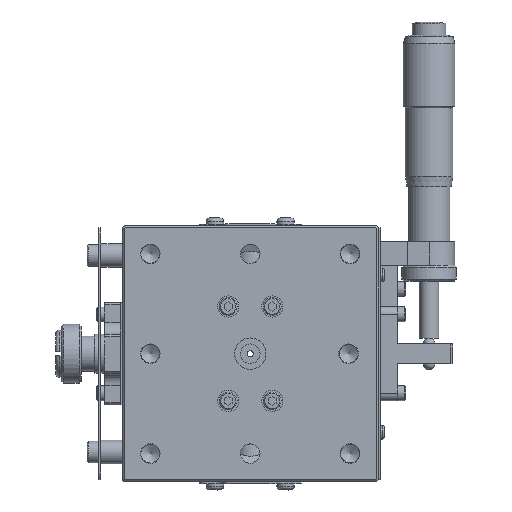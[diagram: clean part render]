
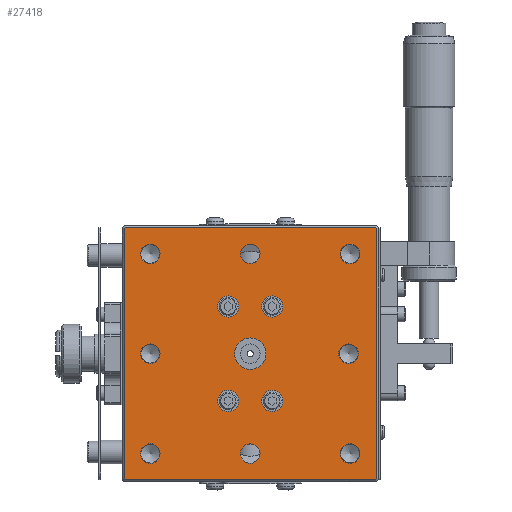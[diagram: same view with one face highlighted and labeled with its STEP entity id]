
A CAD part, top view. The second image highlights one B-rep face of the part: STEP entity #27418.
In plain terms, the highlighted planar face has unit normal (0, 0, 1).
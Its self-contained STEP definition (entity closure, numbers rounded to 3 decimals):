
#26870=CARTESIAN_POINT('',(-32.0,31.793,-50.0));
#26871=VERTEX_POINT('',#26870);
#26872=CARTESIAN_POINT('',(-31.793,32.0,-50.0));
#26873=VERTEX_POINT('',#26872);
#26874=CARTESIAN_POINT('',(-32.0,31.793,-50.0));
#26875=DIRECTION('',(0.707,0.707,0.0));
#26876=VECTOR('',#26875,0.293);
#26877=LINE('',#26874,#26876);
#26878=EDGE_CURVE('',#26871,#26873,#26877,.T.);
#26910=CARTESIAN_POINT('',(-32.0,-31.793,-50.0));
#26911=VERTEX_POINT('',#26910);
#26912=CARTESIAN_POINT('',(-32.0,-31.793,-50.0));
#26913=DIRECTION('',(0.0,1.0,0.0));
#26914=VECTOR('',#26913,63.586);
#26915=LINE('',#26912,#26914);
#26916=EDGE_CURVE('',#26911,#26871,#26915,.T.);
#26960=CARTESIAN_POINT('',(31.793,32.0,-50.0));
#26961=VERTEX_POINT('',#26960);
#26962=CARTESIAN_POINT('',(-31.793,32.0,-50.0));
#26963=DIRECTION('',(1.0,0.0,0.0));
#26964=VECTOR('',#26963,63.586);
#26965=LINE('',#26962,#26964);
#26966=EDGE_CURVE('',#26873,#26961,#26965,.T.);
#26982=CARTESIAN_POINT('',(31.793,-32.,-50.0));
#26983=VERTEX_POINT('',#26982);
#26984=CARTESIAN_POINT('',(-31.793,-32.0,-50.0));
#26985=VERTEX_POINT('',#26984);
#26986=CARTESIAN_POINT('',(31.793,-32.,-50.0));
#26987=DIRECTION('',(-1.0,0.0,0.0));
#26988=VECTOR('',#26987,63.586);
#26989=LINE('',#26986,#26988);
#26990=EDGE_CURVE('',#26983,#26985,#26989,.T.);
#27020=CARTESIAN_POINT('',(32.0,31.793,-50.0));
#27021=VERTEX_POINT('',#27020);
#27022=CARTESIAN_POINT('',(32.,-31.793,-50.0));
#27023=VERTEX_POINT('',#27022);
#27024=CARTESIAN_POINT('',(32.0,31.793,-50.0));
#27025=DIRECTION('',(0.0,-1.0,0.0));
#27026=VECTOR('',#27025,63.586);
#27027=LINE('',#27024,#27026);
#27028=EDGE_CURVE('',#27021,#27023,#27027,.T.);
#27053=CARTESIAN_POINT('',(32.,-31.793,-50.0));
#27054=DIRECTION('',(-0.707,-0.707,0.0));
#27055=VECTOR('',#27054,0.293);
#27056=LINE('',#27053,#27055);
#27057=EDGE_CURVE('',#27023,#26983,#27056,.T.);
#27075=CARTESIAN_POINT('',(31.793,32.0,-50.0));
#27076=DIRECTION('',(0.707,-0.707,0.0));
#27077=VECTOR('',#27076,0.293);
#27078=LINE('',#27075,#27077);
#27079=EDGE_CURVE('',#26961,#27021,#27078,.T.);
#27092=CARTESIAN_POINT('',(-31.793,-32.0,-50.0));
#27093=DIRECTION('',(-0.707,0.707,0.0));
#27094=VECTOR('',#27093,0.293);
#27095=LINE('',#27092,#27094);
#27096=EDGE_CURVE('',#26985,#26911,#27095,.T.);
#27260=CARTESIAN_POINT('',(32.5,-32.5,-50.0));
#27261=DIRECTION('',(0.0,0.0,-1.0));
#27262=DIRECTION('',(-1.0,0.0,0.0));
#27263=AXIS2_PLACEMENT_3D('',#27260,#27261,#27262);
#27264=PLANE('',#27263);
#27265=ORIENTED_EDGE('',*,*,#27028,.F.);
#27266=ORIENTED_EDGE('',*,*,#27079,.F.);
#27267=ORIENTED_EDGE('',*,*,#26966,.F.);
#27268=ORIENTED_EDGE('',*,*,#26878,.F.);
#27269=ORIENTED_EDGE('',*,*,#26916,.F.);
#27270=ORIENTED_EDGE('',*,*,#27096,.F.);
#27271=ORIENTED_EDGE('',*,*,#26990,.F.);
#27272=ORIENTED_EDGE('',*,*,#27057,.F.);
#27273=EDGE_LOOP('',(#27265,#27266,#27267,#27268,#27269,#27270,#27271,#27272));
#27274=FACE_OUTER_BOUND('',#27273,.T.);
#27275=CARTESIAN_POINT('',(-2.9,-12.,-50.0));
#27276=VERTEX_POINT('',#27275);
#27277=CARTESIAN_POINT('',(-5.6,-12.,-50.0));
#27278=DIRECTION('',(0.0,0.0,-1.0));
#27279=DIRECTION('',(1.0,0.0,0.0));
#27280=AXIS2_PLACEMENT_3D('',#27277,#27278,#27279);
#27281=CIRCLE('',#27280,2.7);
#27282=EDGE_CURVE('',#27276,#27276,#27281,.T.);
#27283=ORIENTED_EDGE('',*,*,#27282,.T.);
#27284=EDGE_LOOP('',(#27283));
#27285=FACE_BOUND('',#27284,.T.);
#27286=CARTESIAN_POINT('',(8.3,-12.,-50.0));
#27287=VERTEX_POINT('',#27286);
#27288=CARTESIAN_POINT('',(5.6,-12.,-50.0));
#27289=DIRECTION('',(0.0,0.0,-1.0));
#27290=DIRECTION('',(1.0,0.0,0.0));
#27291=AXIS2_PLACEMENT_3D('',#27288,#27289,#27290);
#27292=CIRCLE('',#27291,2.7);
#27293=EDGE_CURVE('',#27287,#27287,#27292,.T.);
#27294=ORIENTED_EDGE('',*,*,#27293,.T.);
#27295=EDGE_LOOP('',(#27294));
#27296=FACE_BOUND('',#27295,.T.);
#27297=CARTESIAN_POINT('',(-2.9,12.,-50.0));
#27298=VERTEX_POINT('',#27297);
#27299=CARTESIAN_POINT('',(-5.6,12.,-50.0));
#27300=DIRECTION('',(0.0,0.0,-1.0));
#27301=DIRECTION('',(1.0,0.0,0.0));
#27302=AXIS2_PLACEMENT_3D('',#27299,#27300,#27301);
#27303=CIRCLE('',#27302,2.7);
#27304=EDGE_CURVE('',#27298,#27298,#27303,.T.);
#27305=ORIENTED_EDGE('',*,*,#27304,.T.);
#27306=EDGE_LOOP('',(#27305));
#27307=FACE_BOUND('',#27306,.T.);
#27308=CARTESIAN_POINT('',(8.3,12.,-50.0));
#27309=VERTEX_POINT('',#27308);
#27310=CARTESIAN_POINT('',(5.6,12.,-50.0));
#27311=DIRECTION('',(0.0,0.0,-1.0));
#27312=DIRECTION('',(1.0,0.0,0.0));
#27313=AXIS2_PLACEMENT_3D('',#27310,#27311,#27312);
#27314=CIRCLE('',#27313,2.7);
#27315=EDGE_CURVE('',#27309,#27309,#27314,.T.);
#27316=ORIENTED_EDGE('',*,*,#27315,.T.);
#27317=EDGE_LOOP('',(#27316));
#27318=FACE_BOUND('',#27317,.T.);
#27319=CARTESIAN_POINT('',(-22.911,-25.4,-50.0));
#27320=VERTEX_POINT('',#27319);
#27321=CARTESIAN_POINT('',(-25.4,-25.4,-50.0));
#27322=DIRECTION('',(0.0,0.0,-1.0));
#27323=DIRECTION('',(1.0,0.0,0.0));
#27324=AXIS2_PLACEMENT_3D('',#27321,#27322,#27323);
#27325=CIRCLE('',#27324,2.489);
#27326=EDGE_CURVE('',#27320,#27320,#27325,.T.);
#27327=ORIENTED_EDGE('',*,*,#27326,.T.);
#27328=EDGE_LOOP('',(#27327));
#27329=FACE_BOUND('',#27328,.T.);
#27330=CARTESIAN_POINT('',(27.889,-25.4,-50.0));
#27331=VERTEX_POINT('',#27330);
#27332=CARTESIAN_POINT('',(25.4,-25.4,-50.0));
#27333=DIRECTION('',(0.0,0.0,-1.0));
#27334=DIRECTION('',(1.0,0.0,0.0));
#27335=AXIS2_PLACEMENT_3D('',#27332,#27333,#27334);
#27336=CIRCLE('',#27335,2.489);
#27337=EDGE_CURVE('',#27331,#27331,#27336,.T.);
#27338=ORIENTED_EDGE('',*,*,#27337,.T.);
#27339=EDGE_LOOP('',(#27338));
#27340=FACE_BOUND('',#27339,.T.);
#27341=CARTESIAN_POINT('',(-22.911,25.4,-50.0));
#27342=VERTEX_POINT('',#27341);
#27343=CARTESIAN_POINT('',(-25.4,25.4,-50.0));
#27344=DIRECTION('',(0.0,0.0,-1.0));
#27345=DIRECTION('',(1.0,0.0,0.0));
#27346=AXIS2_PLACEMENT_3D('',#27343,#27344,#27345);
#27347=CIRCLE('',#27346,2.489);
#27348=EDGE_CURVE('',#27342,#27342,#27347,.T.);
#27349=ORIENTED_EDGE('',*,*,#27348,.T.);
#27350=EDGE_LOOP('',(#27349));
#27351=FACE_BOUND('',#27350,.T.);
#27352=CARTESIAN_POINT('',(27.889,25.4,-50.0));
#27353=VERTEX_POINT('',#27352);
#27354=CARTESIAN_POINT('',(25.4,25.4,-50.0));
#27355=DIRECTION('',(0.0,0.0,-1.0));
#27356=DIRECTION('',(1.0,0.0,0.0));
#27357=AXIS2_PLACEMENT_3D('',#27354,#27355,#27356);
#27358=CIRCLE('',#27357,2.489);
#27359=EDGE_CURVE('',#27353,#27353,#27358,.T.);
#27360=ORIENTED_EDGE('',*,*,#27359,.T.);
#27361=EDGE_LOOP('',(#27360));
#27362=FACE_BOUND('',#27361,.T.);
#27363=CARTESIAN_POINT('',(-22.911,0.,-50.0));
#27364=VERTEX_POINT('',#27363);
#27365=CARTESIAN_POINT('',(-25.4,0.,-50.0));
#27366=DIRECTION('',(0.0,0.0,-1.0));
#27367=DIRECTION('',(1.0,0.0,0.0));
#27368=AXIS2_PLACEMENT_3D('',#27365,#27366,#27367);
#27369=CIRCLE('',#27368,2.489);
#27370=EDGE_CURVE('',#27364,#27364,#27369,.T.);
#27371=ORIENTED_EDGE('',*,*,#27370,.T.);
#27372=EDGE_LOOP('',(#27371));
#27373=FACE_BOUND('',#27372,.T.);
#27374=CARTESIAN_POINT('',(27.489,0.,-50.0));
#27375=VERTEX_POINT('',#27374);
#27376=CARTESIAN_POINT('',(25.,0.,-50.0));
#27377=DIRECTION('',(0.0,0.0,-1.0));
#27378=DIRECTION('',(1.0,0.0,0.0));
#27379=AXIS2_PLACEMENT_3D('',#27376,#27377,#27378);
#27380=CIRCLE('',#27379,2.489);
#27381=EDGE_CURVE('',#27375,#27375,#27380,.T.);
#27382=ORIENTED_EDGE('',*,*,#27381,.T.);
#27383=EDGE_LOOP('',(#27382));
#27384=FACE_BOUND('',#27383,.T.);
#27385=CARTESIAN_POINT('',(2.489,-25.4,-50.0));
#27386=VERTEX_POINT('',#27385);
#27387=CARTESIAN_POINT('',(0.0,-25.4,-50.0));
#27388=DIRECTION('',(0.0,0.0,-1.0));
#27389=DIRECTION('',(1.0,0.0,0.0));
#27390=AXIS2_PLACEMENT_3D('',#27387,#27388,#27389);
#27391=CIRCLE('',#27390,2.489);
#27392=EDGE_CURVE('',#27386,#27386,#27391,.T.);
#27393=ORIENTED_EDGE('',*,*,#27392,.T.);
#27394=EDGE_LOOP('',(#27393));
#27395=FACE_BOUND('',#27394,.T.);
#27396=CARTESIAN_POINT('',(2.489,25.4,-50.0));
#27397=VERTEX_POINT('',#27396);
#27398=CARTESIAN_POINT('',(0.0,25.4,-50.0));
#27399=DIRECTION('',(0.0,0.0,-1.0));
#27400=DIRECTION('',(1.0,0.0,0.0));
#27401=AXIS2_PLACEMENT_3D('',#27398,#27399,#27400);
#27402=CIRCLE('',#27401,2.489);
#27403=EDGE_CURVE('',#27397,#27397,#27402,.T.);
#27404=ORIENTED_EDGE('',*,*,#27403,.T.);
#27405=EDGE_LOOP('',(#27404));
#27406=FACE_BOUND('',#27405,.T.);
#27407=CARTESIAN_POINT('',(4.0,0.,-50.0));
#27408=VERTEX_POINT('',#27407);
#27409=CARTESIAN_POINT('',(0.0,0.,-50.0));
#27410=DIRECTION('',(0.0,0.0,-1.0));
#27411=DIRECTION('',(-1.0,0.0,0.0));
#27412=AXIS2_PLACEMENT_3D('',#27409,#27410,#27411);
#27413=CIRCLE('',#27412,4.0);
#27414=EDGE_CURVE('',#27408,#27408,#27413,.T.);
#27415=ORIENTED_EDGE('',*,*,#27414,.T.);
#27416=EDGE_LOOP('',(#27415));
#27417=FACE_BOUND('',#27416,.T.);
#27418=ADVANCED_FACE('',(#27274,#27285,#27296,#27307,#27318,#27329,#27340,#27351,#27362,#27373,#27384,#27395,#27406,#27417),#27264,.F.);
